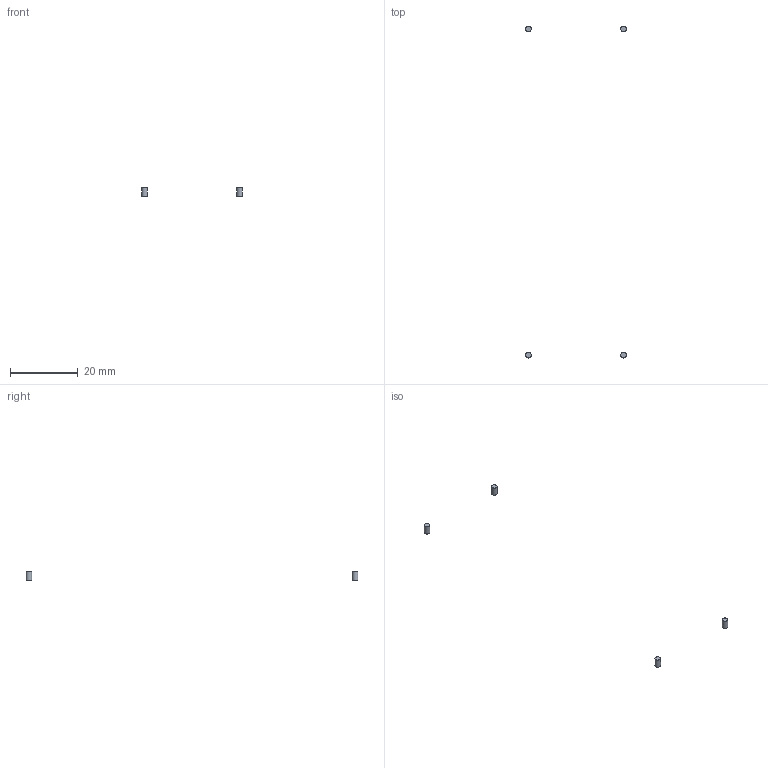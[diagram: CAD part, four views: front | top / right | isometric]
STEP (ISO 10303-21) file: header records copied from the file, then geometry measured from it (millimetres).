
FILE_DESCRIPTION(('Open CASCADE Model'),'2;1');
FILE_NAME('CUT_P02_ANTENNA_PILOTS_Zm22p75','2026-09-15T13:10:23',( 'Author'),('Open CASCADE'),'Open CASCADE STEP processor 7.9', 'build123d','Unknown');
FILE_SCHEMA(('AUTOMOTIVE_DESIGN { 1 0 10303 214 1 1 1 1 }'));
Length unit declared in the file: millimetre
Products named in the file (1): CUT_P02_ANTENNA_PILOTS_Zm22p75
Bounding box: 29.7 x 97.7 x 2.55 mm (x, y, z)
Volume: 23.2 mm3; surface area: 72.6 mm2
Topology: 4 solids, 4 shells, 12 faces, 12 edges, 8 vertices
Faces by surface type: plane 8, cylinder 4
Full cylindrical faces by diameter (mm): 1.7 x4
Entity records: 384 total; most frequent: DIRECTION 70, CARTESIAN_POINT 57, ORIENTED_EDGE 24, PCURVE 24, DEFINITIONAL_REPRESENTATION 24, AXIS2_PLACEMENT_3D 21, LINE 20, VECTOR 20
